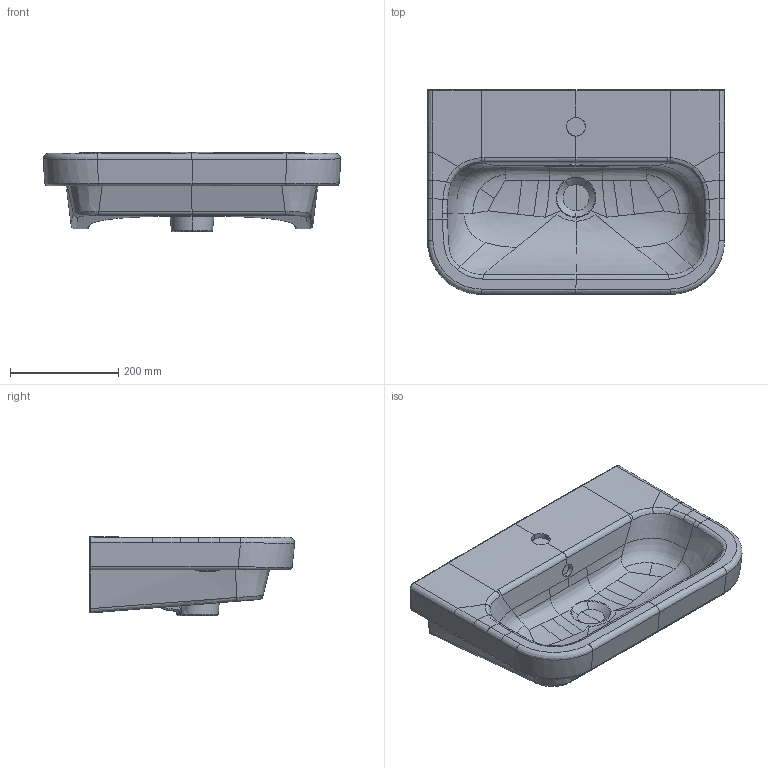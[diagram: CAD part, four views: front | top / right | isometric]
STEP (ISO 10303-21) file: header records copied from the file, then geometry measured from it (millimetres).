
FILE_DESCRIPTION(/* description */ (''),/* implementation_level */ '2;1');
FILE_NAME(/* name */ '418955_OA_Relaunch.stp',/* time_stamp */ '2019-02-19T09:45:41+01:00',/* author */ (''),/* organization */ (''),/* preprocessor_version */ 'ST-DEVELOPER v16',/* originating_system */ 'SIEMENS PLM Software NX 10.0',/* authorisation */ '');
FILE_SCHEMA (('AUTOMOTIVE_DESIGN { 1 0 10303 214 3 1 1 1 }'));
Products named in the file (1): math210C1D535t15
Bounding box: 550.01 x 379.41 x 146.68 mm (x, y, z)
Volume: 12668749.5 mm3; surface area: 679568 mm2
Topology: 1 solids, 1 shells, 327 faces, 855 edges, 523 vertices
Faces by surface type: bspline 259, plane 26, cylinder 22, torus 9, sphere 4, extrusion 4, cone 3
Entity records: 36465 total; most frequent: CARTESIAN_POINT 30812, ORIENTED_EDGE 1692, EDGE_CURVE 846, B_SPLINE_CURVE_WITH_KNOTS 612, VERTEX_POINT 523, DIRECTION 386, EDGE_LOOP 329, ADVANCED_FACE 327
